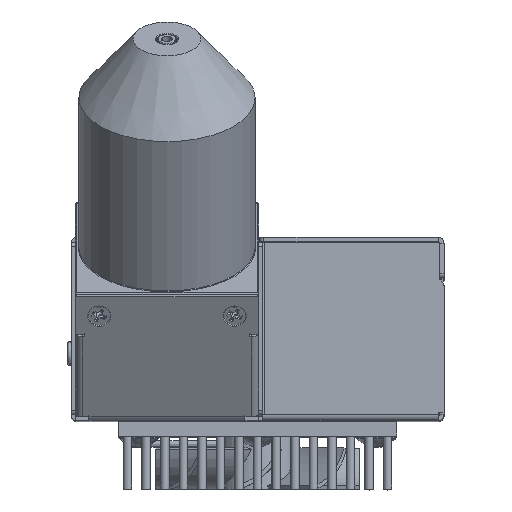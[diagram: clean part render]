
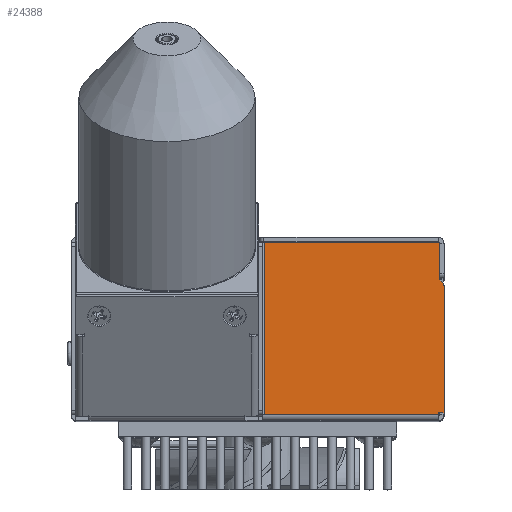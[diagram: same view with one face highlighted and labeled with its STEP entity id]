
A CAD part, top view. The second image highlights one B-rep face of the part: STEP entity #24388.
In plain terms, the highlighted planar face has unit normal (0, 0, 1).
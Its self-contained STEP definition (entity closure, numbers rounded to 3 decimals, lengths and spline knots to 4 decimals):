
#29 = ORIENTED_EDGE ( 'NONE', *, *, #35563, .F. ) ;
#896 = ORIENTED_EDGE ( 'NONE', *, *, #36981, .T. ) ;
#2042 = ORIENTED_EDGE ( 'NONE', *, *, #81302, .F. ) ;
#2851 = CARTESIAN_POINT ( 'NONE',  ( -5.74, 7.1011, 0. ) ) ;
#3930 = DIRECTION ( 'NONE',  ( 0., 0., 1. ) ) ;
#5219 = CARTESIAN_POINT ( 'NONE',  ( -5.7405, 6.1551, 0. ) ) ;
#5255 = VECTOR ( 'NONE', #56072, 39.3701 ) ;
#5398 = EDGE_CURVE ( 'NONE', #14305, #67125, #42429, .T. ) ;
#5603 = CARTESIAN_POINT ( 'NONE',  ( -5.8561, 7.2751, 0. ) ) ;
#6681 = VERTEX_POINT ( 'NONE', #66575 ) ;
#6704 = VECTOR ( 'NONE', #17830, 39.3701 ) ;
#8685 = EDGE_CURVE ( 'NONE', #71931, #46462, #73259, .T. ) ;
#8820 = VERTEX_POINT ( 'NONE', #49024 ) ;
#9004 = CARTESIAN_POINT ( 'NONE',  ( -5.735, 7.1583, 0. ) ) ;
#9632 = DIRECTION ( 'NONE',  ( -1., 0., 0. ) ) ;
#10298 = DIRECTION ( 'NONE',  ( -1., 0., 0. ) ) ;
#11488 = DIRECTION ( 'NONE',  ( 0., -1., 0. ) ) ;
#12366 = AXIS2_PLACEMENT_3D ( 'NONE', #2851, #15164, #9632 ) ;
#12981 = ORIENTED_EDGE ( 'NONE', *, *, #18070, .F. ) ;
#14305 = VERTEX_POINT ( 'NONE', #68302 ) ;
#15164 = DIRECTION ( 'NONE',  ( 0., 0., -1. ) ) ;
#17061 = CARTESIAN_POINT ( 'NONE',  ( -5.725, 7.1583, 0. ) ) ;
#17830 = DIRECTION ( 'NONE',  ( 0., -1., 0. ) ) ;
#18027 = PLANE ( 'NONE',  #26461 ) ;
#18070 = EDGE_CURVE ( 'NONE', #46462, #45215, #69506, .T. ) ;
#20394 = LINE ( 'NONE', #41154, #68840 ) ;
#21477 = CARTESIAN_POINT ( 'NONE',  ( -5.7405, 6.1551, 0. ) ) ;
#22421 = ORIENTED_EDGE ( 'NONE', *, *, #66985, .F. ) ;
#22510 = CARTESIAN_POINT ( 'NONE',  ( -5.6993, 7.1059, 0. ) ) ;
#23719 = ORIENTED_EDGE ( 'NONE', *, *, #64668, .F. ) ;
#24388 = ADVANCED_FACE ( 'NONE', ( #62484 ), #18027, .F. ) ;
#26246 = DIRECTION ( 'NONE',  ( -1., 0., 0. ) ) ;
#26461 = AXIS2_PLACEMENT_3D ( 'NONE', #36684, #29918, #68837 ) ;
#29705 = CARTESIAN_POINT ( 'NONE',  ( -5.7321, 7.1512, 0. ) ) ;
#29918 = DIRECTION ( 'NONE',  ( 0., 0., -1. ) ) ;
#31468 = VECTOR ( 'NONE', #58574, 39.3701 ) ;
#32534 = VECTOR ( 'NONE', #11488, 39.3701 ) ;
#32775 = CARTESIAN_POINT ( 'NONE',  ( -5.699, 6.1705, 0. ) ) ;
#35563 = EDGE_CURVE ( 'NONE', #38747, #71931, #50926, .T. ) ;
#36684 = CARTESIAN_POINT ( 'NONE',  ( -5.699, 7.4321, 0. ) ) ;
#36981 = EDGE_CURVE ( 'NONE', #64444, #6681, #83428, .T. ) ;
#38082 = VECTOR ( 'NONE', #77808, 39.3701 ) ;
#38747 = VERTEX_POINT ( 'NONE', #29705 ) ;
#41154 = CARTESIAN_POINT ( 'NONE',  ( -7.0261, 6.1551, 0. ) ) ;
#42429 = LINE ( 'NONE', #49210, #6704 ) ;
#45215 = VERTEX_POINT ( 'NONE', #51151 ) ;
#46148 = CARTESIAN_POINT ( 'NONE',  ( -5.699, 7.4271, 0. ) ) ;
#46462 = VERTEX_POINT ( 'NONE', #22510 ) ;
#46933 = ORIENTED_EDGE ( 'NONE', *, *, #5398, .F. ) ;
#49024 = CARTESIAN_POINT ( 'NONE',  ( -7.0261, 6.1551, 0. ) ) ;
#49210 = CARTESIAN_POINT ( 'NONE',  ( -5.7405, 7.4321, 0. ) ) ;
#50926 = LINE ( 'NONE', #5603, #71914 ) ;
#51151 = CARTESIAN_POINT ( 'NONE',  ( -5.6993, 6.1705, 0. ) ) ;
#52269 = CARTESIAN_POINT ( 'NONE',  ( -5.735, 7.4271, 0. ) ) ;
#52409 = CARTESIAN_POINT ( 'NONE',  ( -5.735, 7.4321, 0. ) ) ;
#53711 = ORIENTED_EDGE ( 'NONE', *, *, #70001, .T. ) ;
#53980 = ORIENTED_EDGE ( 'NONE', *, *, #78779, .T. ) ;
#54038 = EDGE_LOOP ( 'NONE', ( #22421, #896, #2042, #53980, #46933, #53711, #12981, #67435, #29, #23719 ) ) ;
#54090 = AXIS2_PLACEMENT_3D ( 'NONE', #17061, #3930, #10298 ) ;
#56072 = DIRECTION ( 'NONE',  ( 1., 0., 0. ) ) ;
#56282 = VERTEX_POINT ( 'NONE', #9004 ) ;
#57335 = LINE ( 'NONE', #32775, #31468 ) ;
#58574 = DIRECTION ( 'NONE',  ( 1., 0., 0. ) ) ;
#62484 = FACE_OUTER_BOUND ( 'NONE', #54038, .T. ) ;
#62765 = DIRECTION ( 'NONE',  ( 0.707, -0.707, 0. ) ) ;
#64444 = VERTEX_POINT ( 'NONE', #52269 ) ;
#64668 = EDGE_CURVE ( 'NONE', #56282, #38747, #64888, .T. ) ;
#64888 = CIRCLE ( 'NONE', #54090, 0.01 ) ;
#66295 = VECTOR ( 'NONE', #26246, 39.3701 ) ;
#66575 = CARTESIAN_POINT ( 'NONE',  ( -7.0261, 7.4271, 0. ) ) ;
#66957 = DIRECTION ( 'NONE',  ( 0., 1., 0. ) ) ;
#66985 = EDGE_CURVE ( 'NONE', #64444, #56282, #78660, .T. ) ;
#67125 = VERTEX_POINT ( 'NONE', #21477 ) ;
#67435 = ORIENTED_EDGE ( 'NONE', *, *, #8685, .F. ) ;
#68302 = CARTESIAN_POINT ( 'NONE',  ( -5.7405, 6.1705, 0. ) ) ;
#68821 = CARTESIAN_POINT ( 'NONE',  ( -5.7111, 7.1301, 0. ) ) ;
#68837 = DIRECTION ( 'NONE',  ( -1., 0., 0. ) ) ;
#68840 = VECTOR ( 'NONE', #66957, 39.3701 ) ;
#69506 = LINE ( 'NONE', #75869, #32534 ) ;
#70001 = EDGE_CURVE ( 'NONE', #14305, #45215, #57335, .T. ) ;
#71914 = VECTOR ( 'NONE', #62765, 39.3701 ) ;
#71931 = VERTEX_POINT ( 'NONE', #68821 ) ;
#73259 = CIRCLE ( 'NONE', #12366, 0.041 ) ;
#75869 = CARTESIAN_POINT ( 'NONE',  ( -5.6993, 7.4321, 0. ) ) ;
#77808 = DIRECTION ( 'NONE',  ( 0., -1., 0. ) ) ;
#78660 = LINE ( 'NONE', #52409, #38082 ) ;
#78779 = EDGE_CURVE ( 'NONE', #8820, #67125, #83158, .T. ) ;
#81302 = EDGE_CURVE ( 'NONE', #8820, #6681, #20394, .T. ) ;
#83158 = LINE ( 'NONE', #5219, #5255 ) ;
#83428 = LINE ( 'NONE', #46148, #66295 ) ;
